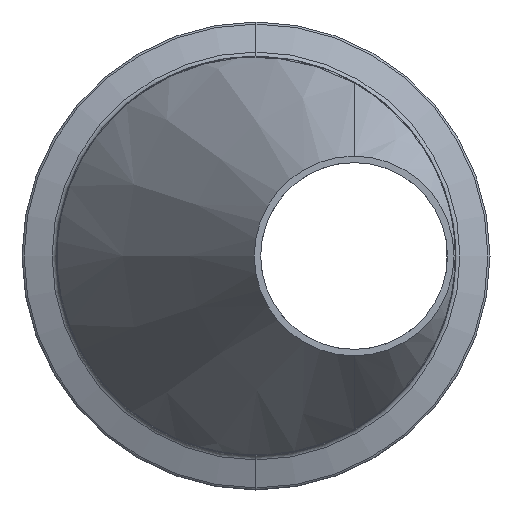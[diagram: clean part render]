
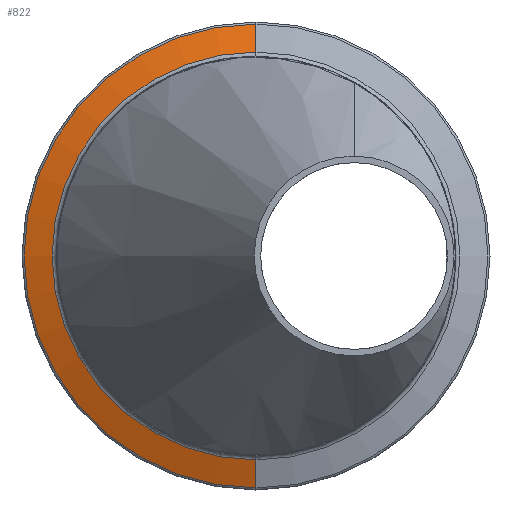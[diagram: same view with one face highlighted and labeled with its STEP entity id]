
A CAD part, left-side view. The second image highlights one B-rep face of the part: STEP entity #822.
In plain terms, the highlighted conical face has half-angle 70 degrees and reference radius 51.853 mm.
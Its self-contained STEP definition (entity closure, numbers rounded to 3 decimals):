
#66 = CIRCLE ( 'NONE', #1976, 51.853 ) ;
#140 = CARTESIAN_POINT ( 'NONE',  ( 69.983, 0., 0. ) ) ;
#270 = CARTESIAN_POINT ( 'NONE',  ( 67.392, 0., 51.853 ) ) ;
#301 = VERTEX_POINT ( 'NONE', #813 ) ;
#318 = DIRECTION ( 'NONE',  ( 0., 0., -1. ) ) ;
#326 = DIRECTION ( 'NONE',  ( 0., 0., 1. ) ) ;
#451 = DIRECTION ( 'NONE',  ( 1., 0., 0. ) ) ;
#510 = CARTESIAN_POINT ( 'NONE',  ( 67.392, 0., -51.853 ) ) ;
#521 = ORIENTED_EDGE ( 'NONE', *, *, #1397, .F. ) ;
#546 = CARTESIAN_POINT ( 'NONE',  ( 69.983, 0., -58.974 ) ) ;
#665 = CARTESIAN_POINT ( 'NONE',  ( 67.392, 0., 0. ) ) ;
#668 = CIRCLE ( 'NONE', #925, 58.974 ) ;
#701 = DIRECTION ( 'NONE',  ( 0.342, 0., -0.94 ) ) ;
#779 = VECTOR ( 'NONE', #701, 1000. ) ;
#813 = CARTESIAN_POINT ( 'NONE',  ( 69.983, 0., 58.974 ) ) ;
#822 = ADVANCED_FACE ( 'NONE', ( #873 ), #1253, .T. ) ;
#873 = FACE_OUTER_BOUND ( 'NONE', #2109, .T. ) ;
#884 = AXIS2_PLACEMENT_3D ( 'NONE', #665, #451, #318 ) ;
#925 = AXIS2_PLACEMENT_3D ( 'NONE', #140, #1446, #326 ) ;
#965 = ORIENTED_EDGE ( 'NONE', *, *, #1918, .T. ) ;
#1021 = VERTEX_POINT ( 'NONE', #270 ) ;
#1047 = VERTEX_POINT ( 'NONE', #1200 ) ;
#1103 = VERTEX_POINT ( 'NONE', #546 ) ;
#1108 = CARTESIAN_POINT ( 'NONE',  ( 67.392, 0., 51.853 ) ) ;
#1112 = DIRECTION ( 'NONE',  ( 0.342, 0., 0.94 ) ) ;
#1200 = CARTESIAN_POINT ( 'NONE',  ( 67.392, 0., -51.853 ) ) ;
#1253 = CONICAL_SURFACE ( 'NONE', #884, 51.853, 1.222 ) ;
#1266 = LINE ( 'NONE', #510, #779 ) ;
#1385 = LINE ( 'NONE', #1108, #2331 ) ;
#1397 = EDGE_CURVE ( 'NONE', #1021, #1047, #66, .T. ) ;
#1446 = DIRECTION ( 'NONE',  ( -1., 0., 0. ) ) ;
#1661 = DIRECTION ( 'NONE',  ( 0., 0., 1. ) ) ;
#1671 = DIRECTION ( 'NONE',  ( -1., 0., 0. ) ) ;
#1689 = CARTESIAN_POINT ( 'NONE',  ( 67.392, 0., 0. ) ) ;
#1870 = ORIENTED_EDGE ( 'NONE', *, *, #2387, .F. ) ;
#1918 = EDGE_CURVE ( 'NONE', #301, #1103, #668, .T. ) ;
#1976 = AXIS2_PLACEMENT_3D ( 'NONE', #1689, #1671, #1661 ) ;
#2006 = ORIENTED_EDGE ( 'NONE', *, *, #2198, .T. ) ;
#2109 = EDGE_LOOP ( 'NONE', ( #521, #2006, #965, #1870 ) ) ;
#2198 = EDGE_CURVE ( 'NONE', #1021, #301, #1385, .T. ) ;
#2331 = VECTOR ( 'NONE', #1112, 1000. ) ;
#2387 = EDGE_CURVE ( 'NONE', #1047, #1103, #1266, .T. ) ;
